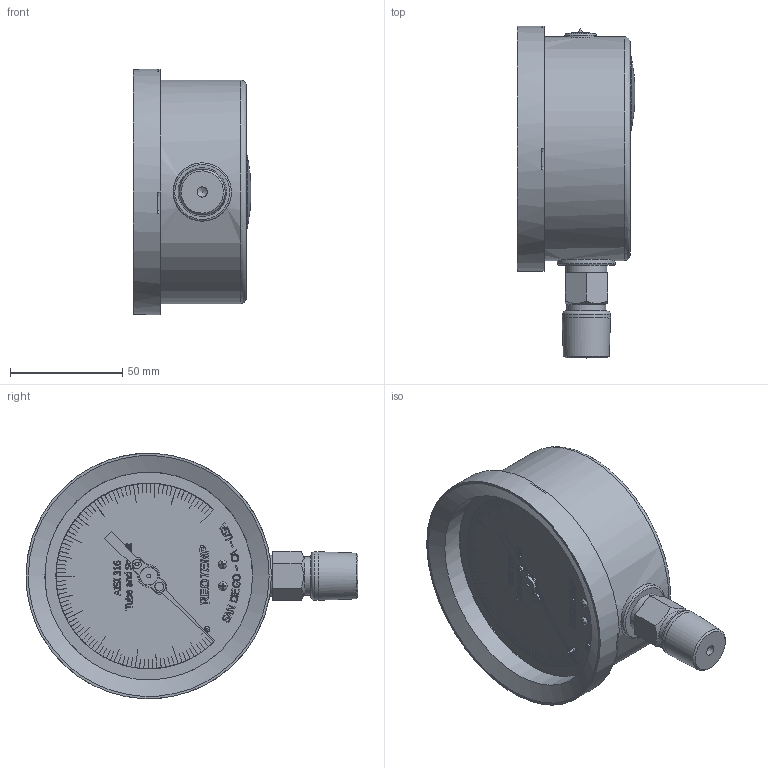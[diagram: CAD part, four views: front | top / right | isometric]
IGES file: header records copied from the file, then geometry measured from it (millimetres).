
Global section: file name: PR40-half-NPT-Bottom-Connect-IGS; native system: Autodesk Inventor 2014; preprocessor: unknown; author: Charles; date: 20151106.160044; units: inch
Bounding box: 52.33 x 147.76 x 109.22 mm (x, y, z)
Volume: 262042.8 mm3; surface area: 59034 mm2
Topology: 2 solids, 6 shells, 1304 faces, 3495 edges, 2335 vertices
Faces by surface type: bspline 1304
